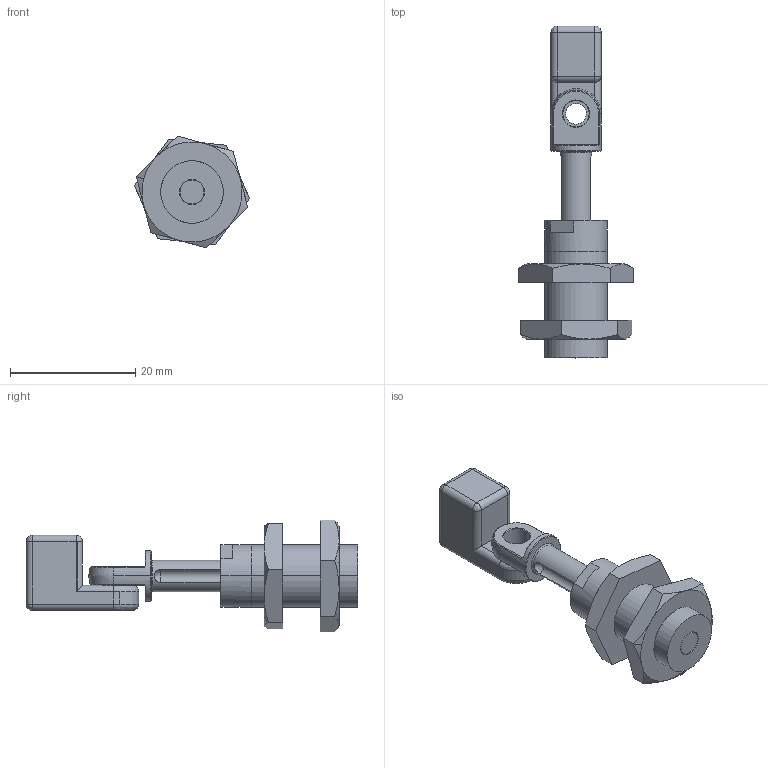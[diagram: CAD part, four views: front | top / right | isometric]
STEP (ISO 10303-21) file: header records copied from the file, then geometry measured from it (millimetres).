
FILE_DESCRIPTION (( 'STEP AP214' ), '1' );
FILE_NAME ('VFET1011-M5.STEP', '2019-11-15T07:11:45', ( '微软用户' ), ( '微软中国' ), 'SwSTEP 2.0', 'SolidWorks 2016', '' );
FILE_SCHEMA (( 'AUTOMOTIVE_DESIGN' ));
Length unit declared in the file: millimetre
Products named in the file (1): VFET1011-M5
Bounding box: 18.37 x 53 x 17.88 mm (x, y, z)
Volume: 3854.5 mm3; surface area: 4285.6 mm2
Topology: 6 solids, 7 shells, 239 faces, 602 edges, 360 vertices
Faces by surface type: cone 86, cylinder 80, plane 48, bspline 25
Entity records: 10463 total; most frequent: CARTESIAN_POINT 2165, DIRECTION 1196, ORIENTED_EDGE 1172, EDGE_CURVE 586, AXIS2_PLACEMENT_3D 489, VERTEX_POINT 360, CIRCLE 274, EDGE_LOOP 258
